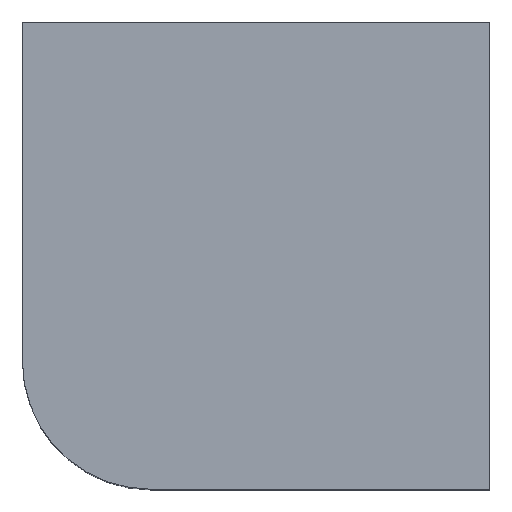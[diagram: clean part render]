
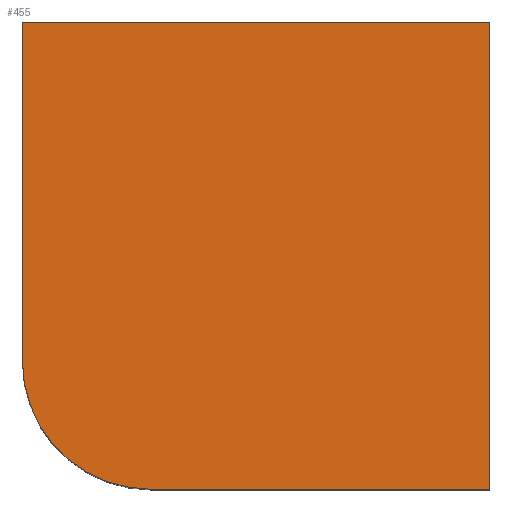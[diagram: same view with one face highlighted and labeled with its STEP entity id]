
A CAD part, top view. The second image highlights one B-rep face of the part: STEP entity #455.
In plain terms, the highlighted planar face has unit normal (0, 0, 1).
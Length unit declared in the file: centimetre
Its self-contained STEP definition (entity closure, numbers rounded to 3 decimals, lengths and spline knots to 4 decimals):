
#19 = DIRECTION ( 'NONE',  ( 1., 0., 0. ) ) ;
#22 = CARTESIAN_POINT ( 'NONE',  ( 274.0927, 274.0927, 1000. ) ) ;
#72 = VECTOR ( 'NONE', #370, 100. ) ;
#98 = VERTEX_POINT ( 'NONE', #417 ) ;
#106 = VERTEX_POINT ( 'NONE', #509 ) ;
#119 = ORIENTED_EDGE ( 'NONE', *, *, #156, .T. ) ;
#127 = DIRECTION ( 'NONE',  ( 0., -1., 0. ) ) ;
#135 = DIRECTION ( 'NONE',  ( 0., 0., 1. ) ) ;
#138 = EDGE_LOOP ( 'NONE', ( #556, #405, #119, #143, #423 ) ) ;
#143 = ORIENTED_EDGE ( 'NONE', *, *, #271, .T. ) ;
#152 = DIRECTION ( 'NONE',  ( 1., 0., 0. ) ) ;
#156 = EDGE_CURVE ( 'NONE', #98, #456, #368, .T. ) ;
#182 = FACE_OUTER_BOUND ( 'NONE', #138, .T. ) ;
#186 = CARTESIAN_POINT ( 'NONE',  ( 0., 1000., 1000. ) ) ;
#210 = EDGE_CURVE ( 'NONE', #106, #574, #568, .T. ) ;
#227 = DIRECTION ( 'NONE',  ( 1., 0., 0. ) ) ;
#241 = CARTESIAN_POINT ( 'NONE',  ( 0., 274.0927, 1000. ) ) ;
#245 = VECTOR ( 'NONE', #261, 100. ) ;
#261 = DIRECTION ( 'NONE',  ( 0., 1., 0. ) ) ;
#265 = CARTESIAN_POINT ( 'NONE',  ( 1000., 0., 1000. ) ) ;
#271 = EDGE_CURVE ( 'NONE', #456, #382, #352, .T. ) ;
#284 = VECTOR ( 'NONE', #127, 100. ) ;
#287 = LINE ( 'NONE', #186, #72 ) ;
#309 = CARTESIAN_POINT ( 'NONE',  ( 1000., 1000., 1000. ) ) ;
#352 = LINE ( 'NONE', #532, #245 ) ;
#358 = CIRCLE ( 'NONE', #434, 274.0927 ) ;
#361 = CARTESIAN_POINT ( 'NONE',  ( 0., 0., 1000. ) ) ;
#363 = DIRECTION ( 'NONE',  ( 0., 0., 1. ) ) ;
#368 = LINE ( 'NONE', #413, #464 ) ;
#370 = DIRECTION ( 'NONE',  ( -1., 0., 0. ) ) ;
#382 = VERTEX_POINT ( 'NONE', #309 ) ;
#405 = ORIENTED_EDGE ( 'NONE', *, *, #511, .T. ) ;
#413 = CARTESIAN_POINT ( 'NONE',  ( 0., 0., 1000. ) ) ;
#417 = CARTESIAN_POINT ( 'NONE',  ( 274.0927, 0., 1000. ) ) ;
#423 = ORIENTED_EDGE ( 'NONE', *, *, #577, .T. ) ;
#434 = AXIS2_PLACEMENT_3D ( 'NONE', #22, #363, #152 ) ;
#455 = ADVANCED_FACE ( 'NONE', ( #182 ), #500, .T. ) ;
#456 = VERTEX_POINT ( 'NONE', #265 ) ;
#464 = VECTOR ( 'NONE', #19, 100. ) ;
#500 = PLANE ( 'NONE',  #525 ) ;
#509 = CARTESIAN_POINT ( 'NONE',  ( 0., 1000., 1000. ) ) ;
#511 = EDGE_CURVE ( 'NONE', #574, #98, #358, .T. ) ;
#524 = CARTESIAN_POINT ( 'NONE',  ( 0., 1000., 1000. ) ) ;
#525 = AXIS2_PLACEMENT_3D ( 'NONE', #361, #135, #227 ) ;
#532 = CARTESIAN_POINT ( 'NONE',  ( 1000., 1000., 1000. ) ) ;
#556 = ORIENTED_EDGE ( 'NONE', *, *, #210, .T. ) ;
#568 = LINE ( 'NONE', #524, #284 ) ;
#574 = VERTEX_POINT ( 'NONE', #241 ) ;
#577 = EDGE_CURVE ( 'NONE', #382, #106, #287, .T. ) ;
